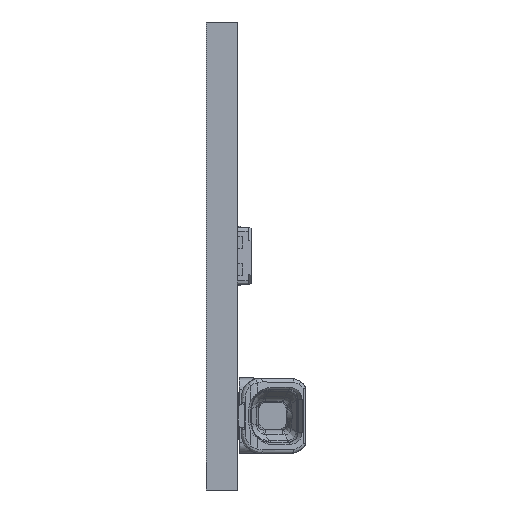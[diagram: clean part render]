
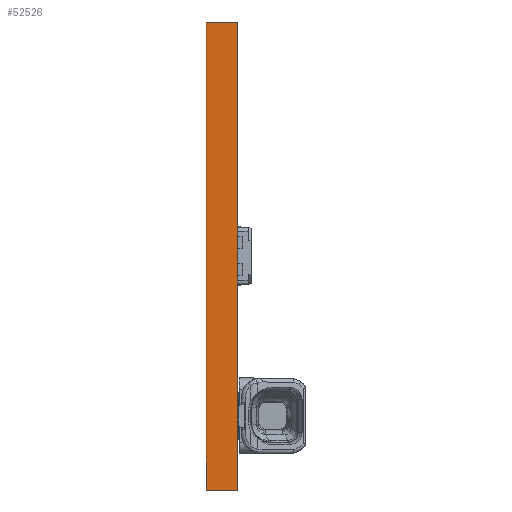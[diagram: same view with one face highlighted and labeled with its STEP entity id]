
A CAD part, left-side view. The second image highlights one B-rep face of the part: STEP entity #52526.
In plain terms, the highlighted planar face has unit normal (-1, 0, 0).
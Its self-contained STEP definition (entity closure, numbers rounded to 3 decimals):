
#3066=ORIENTED_EDGE('',*,*,#14343,.F.);
#3067=ORIENTED_EDGE('',*,*,#14332,.F.);
#3068=ORIENTED_EDGE('',*,*,#14320,.T.);
#3069=ORIENTED_EDGE('',*,*,#14342,.T.);
#14320=EDGE_CURVE('',#19949,#19950,#23919,.T.);
#14332=EDGE_CURVE('',#19949,#19960,#23925,.T.);
#14342=EDGE_CURVE('',#19950,#19968,#23929,.T.);
#14343=EDGE_CURVE('',#19960,#19968,#23930,.T.);
#19949=VERTEX_POINT('',#71470);
#19950=VERTEX_POINT('',#71471);
#19960=VERTEX_POINT('',#71492);
#19968=VERTEX_POINT('',#71519);
#23919=LINE('',#71469,#28567);
#23925=LINE('',#71494,#28573);
#23929=LINE('',#71520,#28577);
#23930=LINE('',#71522,#28578);
#28567=VECTOR('',#58439,1000.);
#28573=VECTOR('',#58459,1000.);
#28577=VECTOR('',#58491,1000.);
#28578=VECTOR('',#58494,1000.);
#32979=EDGE_LOOP('',(#3066,#3067,#3068,#3069));
#35544=FACE_BOUND('',#32979,.T.);
#38011=PLANE('',#54781);
#52526=ADVANCED_FACE('',(#35544),#38011,.T.);
#54781=AXIS2_PLACEMENT_3D('',#71521,#58492,#58493);
#58439=DIRECTION('',(0.,0.,-1.));
#58459=DIRECTION('',(0.,-1.,0.));
#58491=DIRECTION('',(0.,-1.,0.));
#58492=DIRECTION('',(-1.,0.,0.));
#58493=DIRECTION('',(0.,0.,1.));
#58494=DIRECTION('',(0.,0.,-1.));
#71469=CARTESIAN_POINT('',(-140.,1.6,12.));
#71470=CARTESIAN_POINT('',(-140.,1.6,12.));
#71471=CARTESIAN_POINT('',(-140.,1.6,-12.));
#71492=CARTESIAN_POINT('',(-140.,0.,12.));
#71494=CARTESIAN_POINT('',(-140.,1.6,12.));
#71519=CARTESIAN_POINT('',(-140.,0.,-12.));
#71520=CARTESIAN_POINT('',(-140.,1.6,-12.));
#71521=CARTESIAN_POINT('',(-140.,1.6,12.));
#71522=CARTESIAN_POINT('',(-140.,0.,12.));
